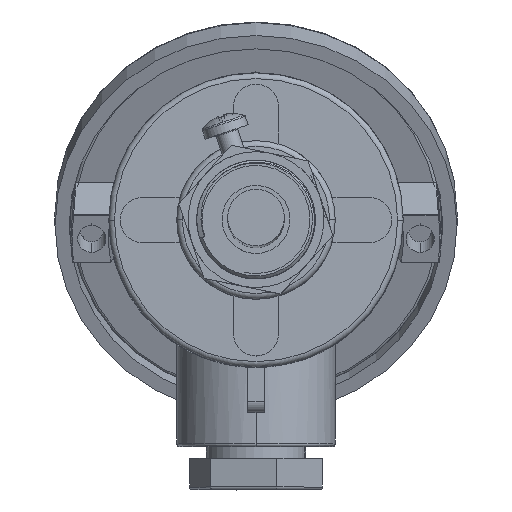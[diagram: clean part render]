
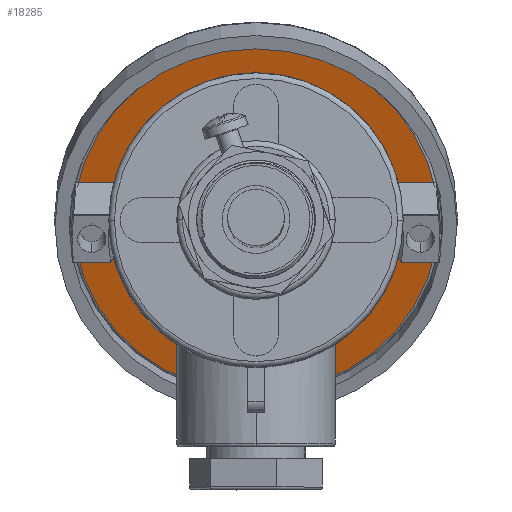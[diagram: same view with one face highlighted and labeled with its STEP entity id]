
A CAD part, top view. The second image highlights one B-rep face of the part: STEP entity #18285.
In plain terms, the highlighted planar face has unit normal (0, -0.327, 0.945).
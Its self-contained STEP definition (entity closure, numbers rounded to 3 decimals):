
#224 = DIRECTION ( 'NONE',  ( 0., -0.327, 0.945 ) ) ;
#467 = DIRECTION ( 'NONE',  ( 0., 0.945, 0.327 ) ) ;
#591 = ORIENTED_EDGE ( 'NONE', *, *, #16828, .F. ) ;
#1365 = VERTEX_POINT ( 'NONE', #3813 ) ;
#1401 = CARTESIAN_POINT ( 'NONE',  ( 0., 0., 9. ) ) ;
#1417 = FACE_BOUND ( 'NONE', #14698, .T. ) ;
#1467 = DIRECTION ( 'NONE',  ( 0., 0.945, 0.327 ) ) ;
#1576 = CARTESIAN_POINT ( 'NONE',  ( 29., 0., 9. ) ) ;
#2004 = CARTESIAN_POINT ( 'NONE',  ( 0., 26., 18. ) ) ;
#2008 = AXIS2_PLACEMENT_3D ( 'NONE', #1401, #19322, #17531 ) ;
#2177 = CARTESIAN_POINT ( 'NONE',  ( 0., 26., 18. ) ) ;
#2197 = CARTESIAN_POINT ( 'NONE',  ( 0., 0., 9. ) ) ;
#2364 = ORIENTED_EDGE ( 'NONE', *, *, #9879, .T. ) ;
#2427 = EDGE_LOOP ( 'NONE', ( #4198, #591 ) ) ;
#2757 = AXIS2_PLACEMENT_3D ( 'NONE', #1576, #22626, #13824 ) ;
#3346 = FACE_BOUND ( 'NONE', #2427, .T. ) ;
#3709 = DIRECTION ( 'NONE',  ( 0., 0.945, 0.327 ) ) ;
#3790 = CARTESIAN_POINT ( 'NONE',  ( -29., 0., 9. ) ) ;
#3813 = CARTESIAN_POINT ( 'NONE',  ( 29., -2.362, 8.182 ) ) ;
#3997 = EDGE_CURVE ( 'NONE', #19076, #20474, #8647, .T. ) ;
#4198 = ORIENTED_EDGE ( 'NONE', *, *, #12233, .F. ) ;
#4502 = CARTESIAN_POINT ( 'NONE',  ( 0., -30.429, -1.533 ) ) ;
#4851 =( BOUNDED_CURVE ( )  B_SPLINE_CURVE ( 3, ( #2004, #10654, #5274, #14474 ),
 .UNSPECIFIED., .F., .F. ) 
 B_SPLINE_CURVE_WITH_KNOTS ( ( 4, 4 ),
 ( 3.142, 6.283 ),
 .UNSPECIFIED. ) 
 CURVE ( )  GEOMETRIC_REPRESENTATION_ITEM ( )  RATIONAL_B_SPLINE_CURVE ( ( 1., 0.333, 0.333, 1. ) ) 
 REPRESENTATION_ITEM ( '' )  );
#5274 = CARTESIAN_POINT ( 'NONE',  ( 52., -26., 0. ) ) ;
#7134 = DIRECTION ( 'NONE',  ( 0., 0.945, 0.327 ) ) ;
#7148 = ORIENTED_EDGE ( 'NONE', *, *, #10177, .F. ) ;
#7395 = CARTESIAN_POINT ( 'NONE',  ( -52., 26., 18. ) ) ;
#7673 = EDGE_CURVE ( 'NONE', #17772, #10313, #4851, .T. ) ;
#7815 = CIRCLE ( 'NONE', #18901, 2.5 ) ;
#8080 = EDGE_LOOP ( 'NONE', ( #19636, #2364 ) ) ;
#8139 = CIRCLE ( 'NONE', #2757, 2.5 ) ;
#8647 = CIRCLE ( 'NONE', #10379, 32.2 ) ;
#9129 = AXIS2_PLACEMENT_3D ( 'NONE', #10038, #13329, #15175 ) ;
#9879 = EDGE_CURVE ( 'NONE', #20474, #19076, #15422, .T. ) ;
#10038 = CARTESIAN_POINT ( 'NONE',  ( 29., 0., 9. ) ) ;
#10177 = EDGE_CURVE ( 'NONE', #18582, #1365, #8139, .T. ) ;
#10313 = VERTEX_POINT ( 'NONE', #16295 ) ;
#10379 = AXIS2_PLACEMENT_3D ( 'NONE', #2197, #11156, #467 ) ;
#10654 = CARTESIAN_POINT ( 'NONE',  ( 52., 26., 18. ) ) ;
#11156 = DIRECTION ( 'NONE',  ( 0., -0.327, 0.945 ) ) ;
#11439 = ORIENTED_EDGE ( 'NONE', *, *, #15044, .F. ) ;
#11933 = CARTESIAN_POINT ( 'NONE',  ( -29., 0., 9. ) ) ;
#11956 = VERTEX_POINT ( 'NONE', #13294 ) ;
#12029 = FACE_OUTER_BOUND ( 'NONE', #8080, .T. ) ;
#12098 = CIRCLE ( 'NONE', #9129, 2.5 ) ;
#12165 = ORIENTED_EDGE ( 'NONE', *, *, #15676, .T. ) ;
#12233 = EDGE_CURVE ( 'NONE', #12687, #11956, #7815, .T. ) ;
#12431 = PLANE ( 'NONE',  #22741 ) ;
#12449 = CARTESIAN_POINT ( 'NONE',  ( -29., -2.362, 8.182 ) ) ;
#12687 = VERTEX_POINT ( 'NONE', #12449 ) ;
#13294 = CARTESIAN_POINT ( 'NONE',  ( -29., 2.362, 9.818 ) ) ;
#13311 = ORIENTED_EDGE ( 'NONE', *, *, #7673, .T. ) ;
#13329 = DIRECTION ( 'NONE',  ( 0., -0.327, 0.945 ) ) ;
#13549 = CARTESIAN_POINT ( 'NONE',  ( 0., 26., 18. ) ) ;
#13566 = CARTESIAN_POINT ( 'NONE',  ( 0., 30.429, 19.533 ) ) ;
#13824 = DIRECTION ( 'NONE',  ( 0., 0.945, 0.327 ) ) ;
#14144 = CARTESIAN_POINT ( 'NONE',  ( 0., 0., 9. ) ) ;
#14474 = CARTESIAN_POINT ( 'NONE',  ( 0., -26., 0. ) ) ;
#14698 = EDGE_LOOP ( 'NONE', ( #12165, #13311 ) ) ;
#15044 = EDGE_CURVE ( 'NONE', #1365, #18582, #12098, .T. ) ;
#15175 = DIRECTION ( 'NONE',  ( 0., 0.945, 0.327 ) ) ;
#15422 = CIRCLE ( 'NONE', #2008, 32.2 ) ;
#15600 =( BOUNDED_CURVE ( )  B_SPLINE_CURVE ( 3, ( #18143, #21705, #7395, #2177 ),
 .UNSPECIFIED., .F., .F. ) 
 B_SPLINE_CURVE_WITH_KNOTS ( ( 4, 4 ),
 ( 0., 3.142 ),
 .UNSPECIFIED. ) 
 CURVE ( )  GEOMETRIC_REPRESENTATION_ITEM ( )  RATIONAL_B_SPLINE_CURVE ( ( 1., 0.333, 0.333, 1. ) ) 
 REPRESENTATION_ITEM ( '' )  );
#15676 = EDGE_CURVE ( 'NONE', #10313, #17772, #15600, .T. ) ;
#16295 = CARTESIAN_POINT ( 'NONE',  ( 0., -26., 0. ) ) ;
#16828 = EDGE_CURVE ( 'NONE', #11956, #12687, #20419, .T. ) ;
#16884 = EDGE_LOOP ( 'NONE', ( #11439, #7148 ) ) ;
#17531 = DIRECTION ( 'NONE',  ( 0., 0.945, 0.327 ) ) ;
#17727 = DIRECTION ( 'NONE',  ( 0., 0.327, -0.945 ) ) ;
#17772 = VERTEX_POINT ( 'NONE', #13549 ) ;
#18143 = CARTESIAN_POINT ( 'NONE',  ( 0., -26., 0. ) ) ;
#18285 = ADVANCED_FACE ( 'NONE', ( #12029, #20920, #1417, #3346 ), #12431, .F. ) ;
#18582 = VERTEX_POINT ( 'NONE', #22778 ) ;
#18901 = AXIS2_PLACEMENT_3D ( 'NONE', #3790, #224, #3709 ) ;
#19076 = VERTEX_POINT ( 'NONE', #13566 ) ;
#19322 = DIRECTION ( 'NONE',  ( 0., -0.327, 0.945 ) ) ;
#19636 = ORIENTED_EDGE ( 'NONE', *, *, #3997, .T. ) ;
#20419 = CIRCLE ( 'NONE', #20588, 2.5 ) ;
#20474 = VERTEX_POINT ( 'NONE', #4502 ) ;
#20588 = AXIS2_PLACEMENT_3D ( 'NONE', #11933, #22840, #1467 ) ;
#20920 = FACE_BOUND ( 'NONE', #16884, .T. ) ;
#21705 = CARTESIAN_POINT ( 'NONE',  ( -52., -26., 0. ) ) ;
#22626 = DIRECTION ( 'NONE',  ( 0., -0.327, 0.945 ) ) ;
#22741 = AXIS2_PLACEMENT_3D ( 'NONE', #14144, #17727, #7134 ) ;
#22778 = CARTESIAN_POINT ( 'NONE',  ( 29., 2.362, 9.818 ) ) ;
#22840 = DIRECTION ( 'NONE',  ( 0., -0.327, 0.945 ) ) ;
